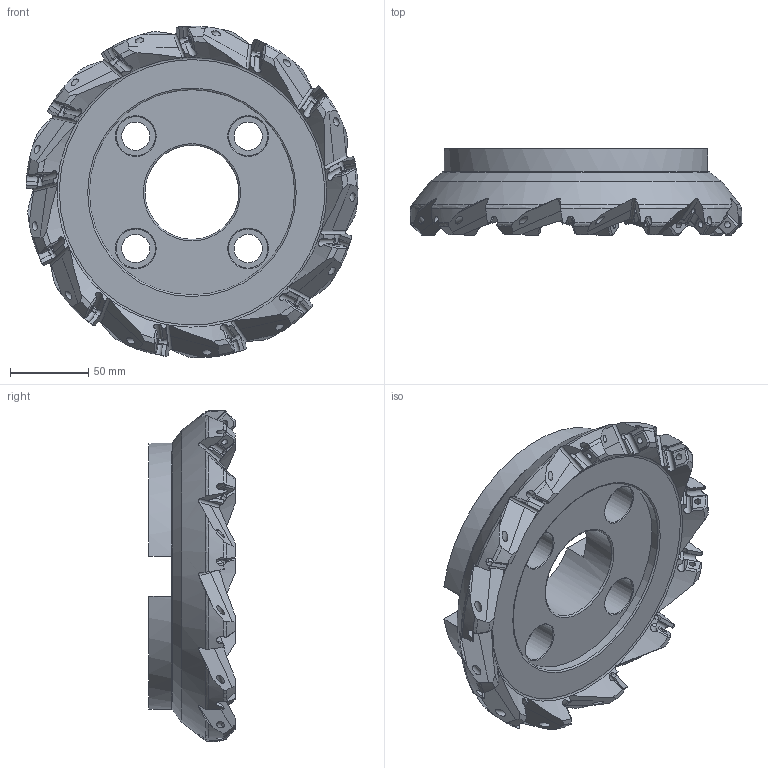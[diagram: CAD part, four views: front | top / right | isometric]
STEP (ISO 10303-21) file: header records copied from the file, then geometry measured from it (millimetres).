
FILE_DESCRIPTION(/* description */ (''),/* implementation_level */ '2;1');
FILE_NAME(/* name */ 'Z:\Проектный отдел\Влад\Фрезы\SNMX1205-200-13T-60.stp',/* time_stamp */ '2023-03-21T11:33:03+03:00',/* author */ ('инженер'),/* organization */ (''),/* preprocessor_version */ 'ST-DEVELOPER v18',/* originating_system */ 'Autodesk Inventor 2020',/* authorisation */ '');
FILE_SCHEMA (('AUTOMOTIVE_DESIGN { 1 0 10303 214 3 1 1 }'));
Length unit declared in the file: millimetre
Products named in the file (1): SNMX1205-200-13T-60
Bounding box: 211.79 x 55 x 211.5 mm (x, y, z)
Volume: 964087.7 mm3; surface area: 112199.9 mm2
Topology: 1 solids, 1 shells, 477 faces, 1455 edges, 971 vertices
Faces by surface type: plane 209, cylinder 89, cone 84, bspline 52, torus 43
Full cylindrical faces by diameter (mm): 4 x13, 18 x4, 25 x4, 60 x1, 131 x1, 170 x1
Entity records: 19555 total; most frequent: CARTESIAN_POINT 7512, ORIENTED_EDGE 2884, DIRECTION 2137, EDGE_CURVE 1442, VERTEX_POINT 971, AXIS2_PLACEMENT_3D 870, EDGE_LOOP 517, FACE_OUTER_BOUND 477
